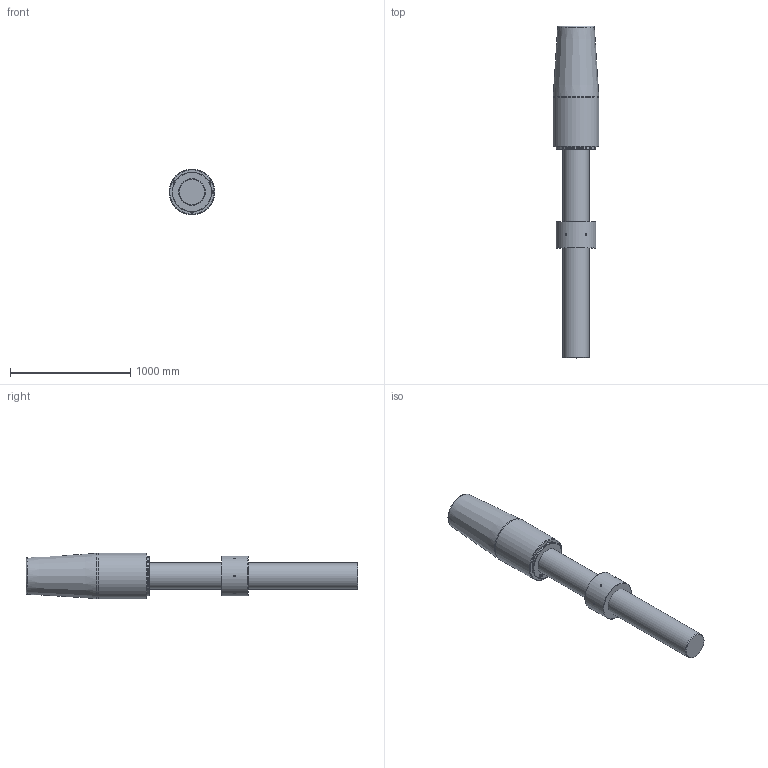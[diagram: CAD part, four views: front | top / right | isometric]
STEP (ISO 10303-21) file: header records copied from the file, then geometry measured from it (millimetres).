
FILE_DESCRIPTION(/* description */ (''),/* implementation_level */ '2;1');
FILE_NAME(/* name */ 'D:\Clienti\Redaelli (inventor)\CYB\STEP\Arrangement\CYB132 52 061 0.stp',/* time_stamp */ '2021-05-08T15:00:20+02:00',/* author */ ('fabri'),/* organization */ (''),/* preprocessor_version */ 'ST-DEVELOPER v16.13',/* originating_system */ 'Autodesk Inventor 2018',/* authorisation */ '');
FILE_SCHEMA (('AUTOMOTIVE_DESIGN { 1 0 10303 214 3 1 1 }'));
Length unit declared in the file: millimetre
Products named in the file (5): CYB132 52 061 0; RNT052 41 051 0_ROD; RNT052 41 051 0_ROD_1; CCY021-51-061-0_BUSH; CCY021-51-061-0
Assembly tree (4 placements, depth 2):
  CYB132 52 061 0
    RNT052 41 051 0_ROD
    RNT052 41 051 0_ROD_1
    CCY021-51-061-0_BUSH
    CCY021-51-061-0
Bounding box: 380 x 2759 x 380 mm (x, y, z)
Volume: 197407992 mm3; surface area: 3782357.4 mm2
Topology: 4 solids, 4 shells, 735 faces, 2004 edges, 1331 vertices
Faces by surface type: bspline 360, plane 337, cylinder 18, cone 16, torus 4
Full cylindrical faces by diameter (mm): 15 x6, 20.752 x3, 211.34 x2, 220 x1, 222 x1, 279 x1, 295 x1, 330 x2, 380 x1
Entity records: 25004 total; most frequent: CARTESIAN_POINT 8925, ORIENTED_EDGE 3910, DIRECTION 2035, EDGE_CURVE 1955, VERTEX_POINT 1321, LINE 1181, VECTOR 1181, EDGE_LOOP 832
